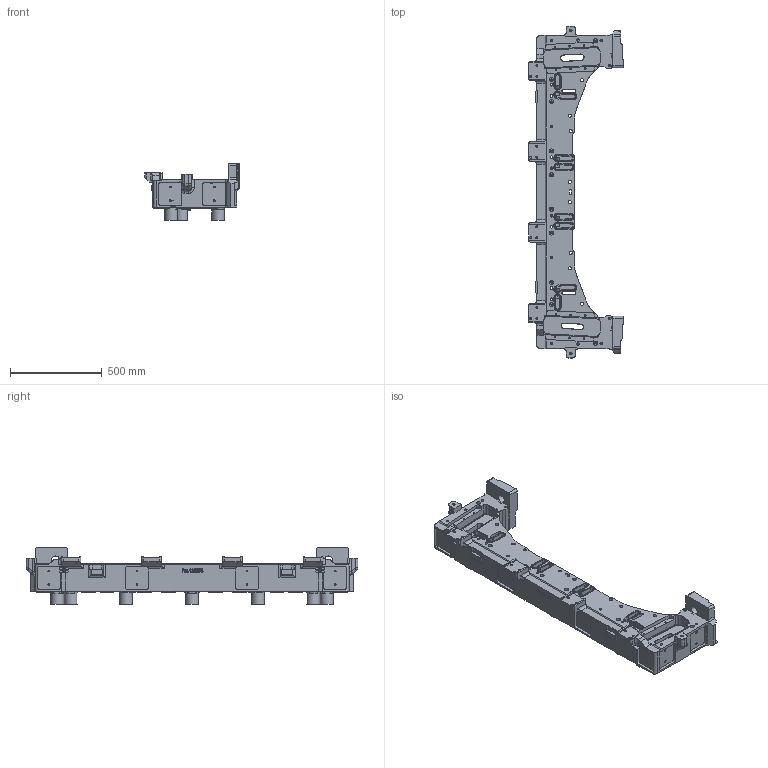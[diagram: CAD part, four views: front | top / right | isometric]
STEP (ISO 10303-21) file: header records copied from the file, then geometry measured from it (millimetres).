
FILE_DESCRIPTION(/* description */ (''),/* implementation_level */ '2;1');
FILE_NAME(/* name */ '013_Podstawa docisku.stp',/* time_stamp */ '2021-06-30T15:36:56+02:00',/* author */ (''),/* organization */ (''),/* preprocessor_version */ 'ST-DEVELOPER v16',/* originating_system */ 'SIEMENS PLM Software NX 10.0',/* authorisation */ '');
FILE_SCHEMA (('AUTOMOTIVE_DESIGN { 1 0 10303 214 3 1 1 1 }'));
Products named in the file (1): 013_Podstawa docisku
Bounding box: 516 x 1810 x 309.5 mm (x, y, z)
Volume: 51628569.4 mm3; surface area: 2989987.6 mm2
Topology: 1 solids, 1 shells, 2027 faces, 5815 edges, 3781 vertices
Faces by surface type: cylinder 781, plane 668, torus 188, bspline 144, cone 140, sphere 82, extrusion 24
Full cylindrical faces by diameter (mm): 5 x4, 6.8 x14, 8.5 x30, 10.3 x32, 12 x4, 14 x30, 18 x8, 22 x12, 26 x16, 35 x1, 44 x2, 70 x5
Entity records: 74744 total; most frequent: CARTESIAN_POINT 17260, DIRECTION 10655, ORIENTED_EDGE 9626, EDGE_CURVE 4813, AXIS2_PLACEMENT_3D 4226, VERTEX_POINT 3177, EDGE_LOOP 2382, CIRCLE 2258
